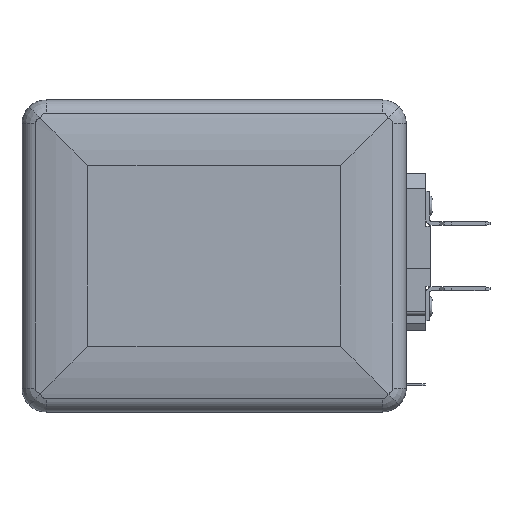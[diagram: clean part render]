
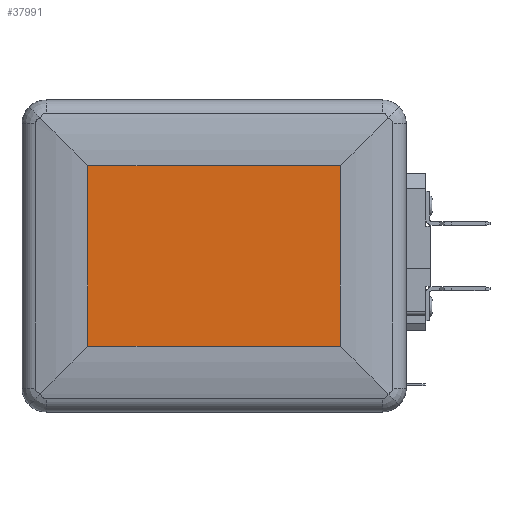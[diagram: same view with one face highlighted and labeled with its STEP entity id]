
A CAD part, top view. The second image highlights one B-rep face of the part: STEP entity #37991.
In plain terms, the highlighted planar face has unit normal (0, 0, 1).
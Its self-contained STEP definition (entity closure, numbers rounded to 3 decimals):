
#35706=CARTESIAN_POINT(' ',(26.27,-18.77,6.));
#35707=VERTEX_POINT(' ',#35706);
#35761=CARTESIAN_POINT(' ',(26.27,18.77,6.));
#35762=VERTEX_POINT(' ',#35761);
#35776=CARTESIAN_POINT(' ',(26.27,18.77,6.));
#35781=DIRECTION(' ',(0.,-1.,0.));
#35786=VECTOR(' ',#35781,1.);
#35791=LINE('',#35776,#35786);
#35796=EDGE_CURVE(' ',#35762,#35707,#35791,.T.);
#36301=CARTESIAN_POINT(' ',(-26.27,-18.77,6.));
#36306=DIRECTION(' ',(1.,0.,0.));
#36311=VECTOR(' ',#36306,1.);
#36316=LINE('',#36301,#36311);
#36321=CARTESIAN_POINT(' ',(-26.27,-18.77,6.));
#36322=VERTEX_POINT(' ',#36321);
#36326=EDGE_CURVE(' ',#36322,#35707,#36316,.T.);
#36871=CARTESIAN_POINT(' ',(-26.27,18.77,6.));
#36876=DIRECTION(' ',(0.,-1.,0.));
#36881=VECTOR(' ',#36876,1.);
#36886=LINE('',#36871,#36881);
#36891=CARTESIAN_POINT(' ',(-26.27,18.77,6.));
#36892=VERTEX_POINT(' ',#36891);
#36896=EDGE_CURVE(' ',#36892,#36322,#36886,.T.);
#37451=CARTESIAN_POINT(' ',(-26.27,18.77,6.));
#37456=DIRECTION(' ',(1.,0.,0.));
#37461=VECTOR(' ',#37456,1.);
#37466=LINE('',#37451,#37461);
#37471=EDGE_CURVE(' ',#36892,#35762,#37466,.T.);
#37936=DIRECTION(' ',(0.,0.,1.));
#37941=CARTESIAN_POINT(' ',(-26.27,-18.77,6.));
#37946=DIRECTION(' ',(1.,0.,0.));
#37951=AXIS2_PLACEMENT_3D(' ',#37941,#37936,#37946);
#37956=PLANE('',#37951);
#37961=ORIENTED_EDGE(' ',*,*,#35796,.F.);
#37966=ORIENTED_EDGE(' ',*,*,#37471,.F.);
#37971=ORIENTED_EDGE(' ',*,*,#36896,.T.);
#37976=ORIENTED_EDGE(' ',*,*,#36326,.T.);
#37981=EDGE_LOOP(' ',(#37961,#37966,#37971,#37976));
#37986=FACE_OUTER_BOUND(' ',#37981,.T.);
#37991=ADVANCED_FACE('',(#37986),#37956,.T.);
